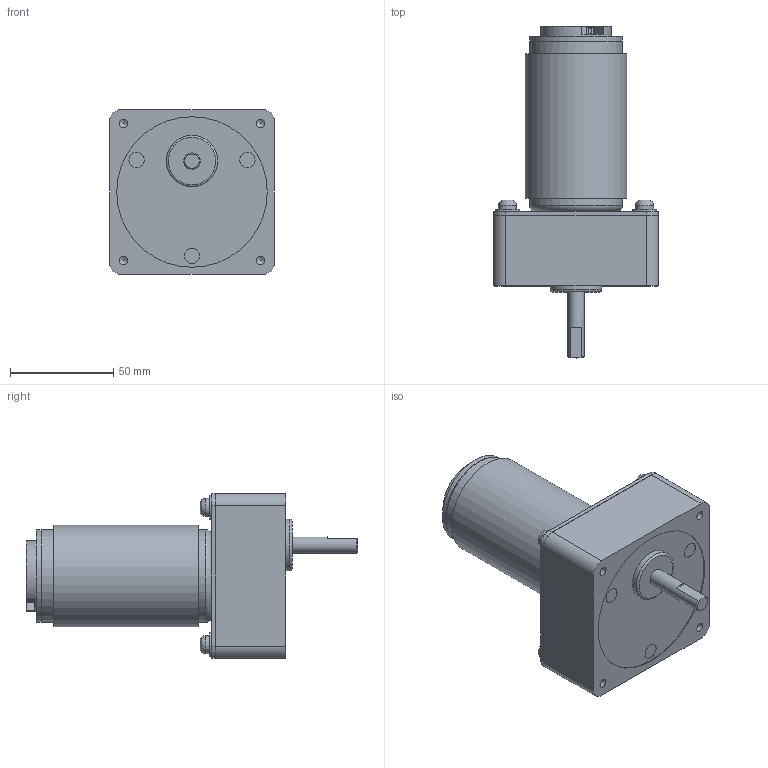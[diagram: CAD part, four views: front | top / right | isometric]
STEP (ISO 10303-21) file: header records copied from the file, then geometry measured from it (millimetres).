
FILE_DESCRIPTION((''),'2;1');
FILE_NAME('C:\Documents and Settings\SSEGAWA\デスクトップ\TP-4990A-DE-2_3.STP','2013-07-29T17:26:07',('SSEGAWA'),(''),'Autodesk Inventor 2010','Autodesk Inventor 2010','');
FILE_SCHEMA(('CONFIG_CONTROL_DESIGN'));
Length unit declared in the file: millimetre
Products named in the file (1): tp_4990a_de_2-3_Shrinkwrap_1
Bounding box: 80 x 161 x 80 mm (x, y, z)
Volume: 391958.8 mm3; surface area: 41491.7 mm2
Topology: 1 solids, 4 shells, 129 faces, 290 edges, 192 vertices
Faces by surface type: plane 69, cylinder 35, bspline 22, torus 2, cone 1
Full cylindrical faces by diameter (mm): 4 x1, 6 x1, 7.5 x3, 8 x1, 8.8 x4, 9 x1, 12 x4, 13 x1, 25 x1, 34 x1, 44.6 x1, 45 x2, 73 x1
Entity records: 3718 total; most frequent: CARTESIAN_POINT 959, DIRECTION 538, ORIENTED_EDGE 454, EDGE_CURVE 227, AXIS2_PLACEMENT_3D 205, EDGE_LOOP 199, VERTEX_POINT 172, STYLED_ITEM 130
